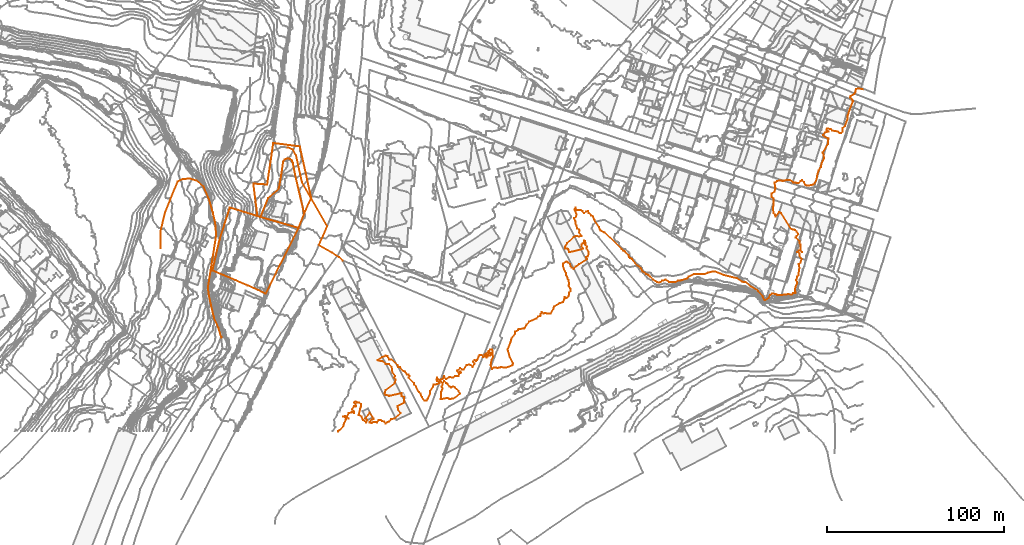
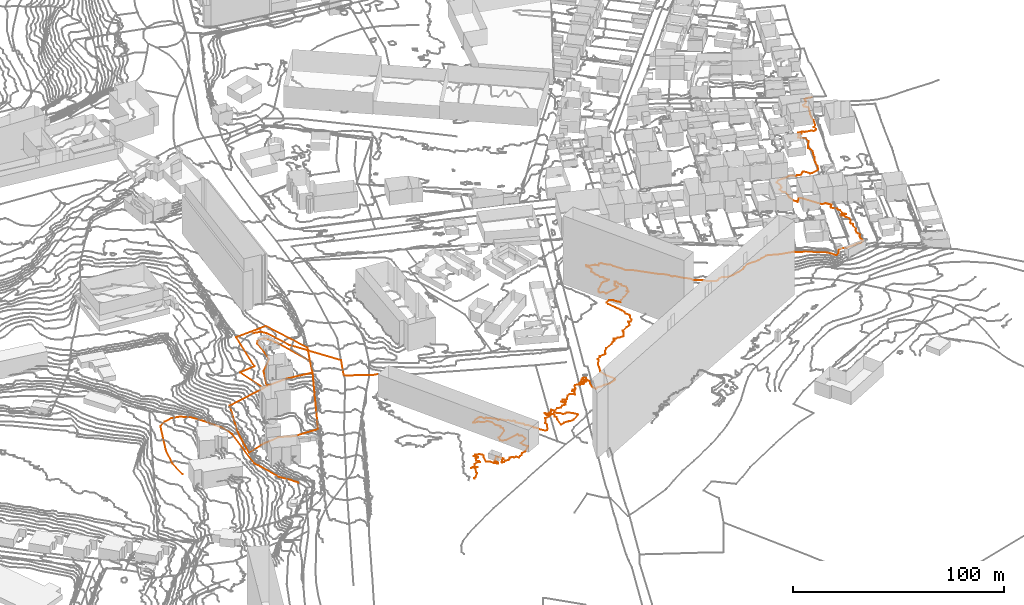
# Not in any storey, part 183 of 419: 8 proxies.
"""IFC2X3 model written with IfcOpenShell, lengths in metres."""

from ifc_helpers import new_model, entity, si_unit, frame, origin_with_axes, place, context, subcontext, project, element, save


model = new_model("IFC2X3")

# Units and contexts
model_context = context("Model", 3, precision=1e-05, world=origin_with_axes())
body_context = subcontext(model_context, "Body", "Model", "MODEL_VIEW")
ifc_project = project(units=[si_unit("AREAUNIT", "SQUARE_METRE"), si_unit("LENGTHUNIT", "METRE")], contexts=[model_context])

# Proxies
proxy_1_placement = place(None, frame((651.2920204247, 158.8976909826, 68.8), z_axis=(0.0, 0.0, 1.0), x_axis=(1.0, 0.0, 0.0)))
element("IfcBuildingElementProxy", 1, at=proxy_1_placement, Name="Route 204", ObjectType="NOTDEFINED", context=body_context, shape_type="GeometricCurveSet", body=[
    entity("IfcGeometricCurveSet", [entity("IfcPolyline", [entity("IfcCartesianPoint", [0.0, 0.0, 0.0]), entity("IfcCartesianPoint", [0.4, 0.0, 0.1]), entity("IfcCartesianPoint", [3.4, -1.2999999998, 0.6]), entity("IfcCartesianPoint", [5.2000000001, -4.7000000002, 1.1]), entity("IfcCartesianPoint", [8.5, -19.5999999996, 2.3]), entity("IfcCartesianPoint", [22.7000000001, -44.4000000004, 3.5])])]),
])
proxy_2_placement = place(None, frame((579.8920204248, 111.3976909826, 47.2), z_axis=(0.0, 0.0, 1.0), x_axis=(1.0, 0.0, 0.0)))
element("IfcBuildingElementProxy", 2, at=proxy_2_placement, Name="Route 238", ObjectType="NOTDEFINED", context=body_context, shape_type="GeometricCurveSet", body=[
    entity("IfcGeometricCurveSet", [entity("IfcPolyline", [entity("IfcCartesianPoint", [34.2999999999, -60.0, 13.3]), entity("IfcCartesianPoint", [34.3999999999, -59.7000000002, 13.3]), entity("IfcCartesianPoint", [32.7999999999, -54.5, 12.3]), entity("IfcCartesianPoint", [30.2, -48.5, 11.2]), entity("IfcCartesianPoint", [27.3999999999, -36.2000000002, 10.7]), entity("IfcCartesianPoint", [26.7999999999, -31.5, 9.7]), entity("IfcCartesianPoint", [31.5, -2.0999999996, 7.3]), entity("IfcCartesianPoint", [30.8999999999, 5.2000000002, 6.5]), entity("IfcCartesianPoint", [29.6, 10.7999999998, 5.4]), entity("IfcCartesianPoint", [27.5, 18.0, 4.2]), entity("IfcCartesianPoint", [24.3999999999, 25.2999999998, 3.0]), entity("IfcCartesianPoint", [20.3999999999, 28.7000000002, 2.7]), entity("IfcCartesianPoint", [16.7999999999, 29.7999999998, 2.5]), entity("IfcCartesianPoint", [12.7, 29.7000000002, 1.9]), entity("IfcCartesianPoint", [9.7, 28.2999999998, 1.3]), entity("IfcCartesianPoint", [2.6, 10.7000000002, 0.3]), entity("IfcCartesianPoint", [0.0, 0.0, 0.0]), entity("IfcCartesianPoint", [0.1, -9.2999999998, -0.4])])]),
])
proxy_3_placement = place(None, frame((669.2920204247, 103.6976909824, 71.5), z_axis=(0.0, 0.0, 1.0), x_axis=(1.0, 0.0, 0.0)))
element("IfcBuildingElementProxy", 3, at=proxy_3_placement, Name="Route 290", ObjectType="NOTDEFINED", context=body_context, shape_type="GeometricCurveSet", body=[
    entity("IfcGeometricCurveSet", [entity("IfcPolyline", [entity("IfcCartesianPoint", [0.0, 0.0, 0.0]), entity("IfcCartesianPoint", [7.4, -4.2999999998, 0.5]), entity("IfcCartesianPoint", [11.5, -6.7999999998, 0.5]), entity("IfcCartesianPoint", [13.5, -8.7000000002, 1.5])])]),
])
proxy_4_placement = place(None, frame((669.2920204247, 103.6976909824, 71.5), z_axis=(0.0, 0.0, 1.0), x_axis=(1.0, 0.0, 0.0)))
element("IfcBuildingElementProxy", 4, at=proxy_4_placement, Name="Route 296", ObjectType="NOTDEFINED", context=body_context, shape_type="GeometricCurveSet", body=[
    entity("IfcGeometricCurveSet", [entity("IfcPolyline", [entity("IfcCartesianPoint", [0.0, 0.0, 0.0]), entity("IfcCartesianPoint", [4.7000000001, 10.7999999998, 0.8])])]),
])
proxy_5_placement = place(None, frame((636.2920204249, 119.6176909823, 67.4784781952), z_axis=(0.0, 0.0, 1.0), x_axis=(1.0, 0.0, 0.0)))
element("IfcBuildingElementProxy", 5, at=proxy_5_placement, Name="Cadastre 117", ObjectType="NOTDEFINED", context=body_context, shape_type="GeometricCurveSet", body=[
    entity("IfcGeometricCurveSet", [entity("IfcPolyline", [entity("IfcCartesianPoint", [0.0, 0.0, 0.0]), entity("IfcCartesianPoint", [4.3899999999, 10.6900000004, 0.5376662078]), entity("IfcCartesianPoint", [10.4399999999, 15.9199999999, 2.2633123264]), entity("IfcCartesianPoint", [11.7899999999, 23.75, 1.97529002]), entity("IfcCartesianPoint", [12.86, 31.3200000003, 1.0476186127]), entity("IfcCartesianPoint", [13.7999999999, 32.4900000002, 1.3649210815]), entity("IfcCartesianPoint", [15.2, 33.0300000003, 1.6007729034]), entity("IfcCartesianPoint", [16.6899999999, 32.79, 1.8151664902]), entity("IfcCartesianPoint", [17.84, 31.8500000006, 2.0108648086]), entity("IfcCartesianPoint", [18.38, 30.4400000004, 2.2387210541]), entity("IfcCartesianPoint", [18.3899999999, 30.3100000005, 2.2551214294]), entity("IfcCartesianPoint", [19.9199999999, 22.8000000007, 3.5352466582]), entity("IfcCartesianPoint", [24.75, 1.8600000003, 4.5261637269]), entity("IfcCartesianPoint", [21.46, -6.2399999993, 3.9955786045]), entity("IfcCartesianPoint", [9.1899999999, -2.6599999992, 2.6491105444]), entity("IfcCartesianPoint", [0.0, 0.0, 0.0])])]),
])
proxy_6_placement = place(None, frame((632.3820204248, 138.4276909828, 65.3368913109), z_axis=(0.0, 0.0, 1.0), x_axis=(1.0, 0.0, 0.0)))
element("IfcBuildingElementProxy", 6, at=proxy_6_placement, Name="Cadastre 118", ObjectType="NOTDEFINED", context=body_context, shape_type="GeometricCurveSet", body=[
    entity("IfcGeometricCurveSet", [entity("IfcPolyline", [entity("IfcCartesianPoint", [2.28, -18.3300000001, 1.1955094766]), entity("IfcCartesianPoint", [0.0, 0.0, 0.0]), entity("IfcCartesianPoint", [7.76, -0.5099999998, 1.090267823]), entity("IfcCartesianPoint", [11.21, 22.9299999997, 2.5523082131]), entity("IfcCartesianPoint", [26.26, 20.96, 4.9481054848]), entity("IfcCartesianPoint", [32.62, -7.7700000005, 7.5296092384]), entity("IfcCartesianPoint", [28.66, -16.9500000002, 6.6677506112]), entity("IfcCartesianPoint", [23.83, 3.9900000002, 5.6768335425]), entity("IfcCartesianPoint", [22.2999999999, 11.5, 4.3967083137]), entity("IfcCartesianPoint", [22.29, 11.6299999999, 4.3803079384]), entity("IfcCartesianPoint", [21.75, 13.04, 4.1524516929]), entity("IfcCartesianPoint", [20.6, 13.9799999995, 3.9567533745]), entity("IfcCartesianPoint", [19.11, 14.2199999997, 3.7423597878]), entity("IfcCartesianPoint", [17.71, 13.6799999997, 3.5065079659]), entity("IfcCartesianPoint", [16.77, 12.5099999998, 3.189205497]), entity("IfcCartesianPoint", [15.7, 4.9399999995, 4.1168769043]), entity("IfcCartesianPoint", [14.35, -2.8900000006, 4.4048992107]), entity("IfcCartesianPoint", [8.2999999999, -8.1200000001, 2.6792530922]), entity("IfcCartesianPoint", [3.91, -18.8100000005, 2.1415868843]), entity("IfcCartesianPoint", [2.28, -18.3300000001, 1.1955094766])])]),
])
proxy_7_placement = place(None, frame((609.2420204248, 89.4476909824, 56.5525741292), z_axis=(0.0, 0.0, 1.0), x_axis=(1.0, 0.0, 0.0)))
element("IfcBuildingElementProxy", 7, at=proxy_7_placement, Name="Cadastre 189", ObjectType="NOTDEFINED", context=body_context, shape_type="GeometricCurveSet", body=[
    entity("IfcGeometricCurveSet", [entity("IfcPolyline", [entity("IfcCartesianPoint", [4.2, 18.1000000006, -0.4886487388]), entity("IfcCartesianPoint", [9.8, 35.4900000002, 2.3563461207]), entity("IfcCartesianPoint", [25.42, 30.6500000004, 9.9798266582]), entity("IfcCartesianPoint", [27.05, 30.1699999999, 10.925904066]), entity("IfcCartesianPoint", [36.24, 27.5100000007, 13.5750146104]), entity("IfcCartesianPoint", [48.51, 23.9300000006, 14.9214826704]), entity("IfcCartesianPoint", [30.08, -13.1099999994, 11.1440056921]), entity("IfcCartesianPoint", [19.87, -8.4299999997, 7.8093286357]), entity("IfcCartesianPoint", [12.96, -5.5599999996, 7.8801990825]), entity("IfcCartesianPoint", [6.26, -2.6999999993, 4.8197861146]), entity("IfcCartesianPoint", [0.0, 0.0, 0.0]), entity("IfcCartesianPoint", [4.2, 18.1000000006, -0.4886487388])])]),
])
proxy_8_placement = place(None, frame((680.0921203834, -1.6023090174, 72.0), z_axis=(0.0, 0.0, 1.0), x_axis=(1.0, 0.0, 0.0)))
element("IfcBuildingElementProxy", 8, at=proxy_8_placement, Name="Contour 72.0 m", ObjectType="NOTDEFINED", context=body_context, shape_type="GeometricCurveSet", body=[
    entity("IfcGeometricCurveSet", [entity("IfcPolyline", [entity("IfcCartesianPoint", [296.4999000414, 193.2368442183, 0.0]), entity("IfcCartesianPoint", [293.9999000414, 193.7424284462, 0.0]), entity("IfcCartesianPoint", [292.3332333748, 193.5, 0.0]), entity("IfcCartesianPoint", [291.9999167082, 191.5, 0.0]), entity("IfcCartesianPoint", [291.2498761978, 190.5, 0.0]), entity("IfcCartesianPoint", [289.4284558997, 189.5, 0.0]), entity("IfcCartesianPoint", [289.1665455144, 188.5, 0.0]), entity("IfcCartesianPoint", [290.166587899, 187.5, 0.0]), entity("IfcCartesianPoint", [290.6999076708, 186.5, 0.0]), entity("IfcCartesianPoint", [288.6577995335, 181.5, 0.0]), entity("IfcCartesianPoint", [287.7498940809, 178.5, 0.0]), entity("IfcCartesianPoint", [287.5141888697, 176.5, 0.0]), entity("IfcCartesianPoint", [286.1514235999, 172.5, 0.0]), entity("IfcCartesianPoint", [284.7499000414, 171.5, 0.0]), entity("IfcCartesianPoint", [284.8332121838, 169.5, 0.0]), entity("IfcCartesianPoint", [283.9999000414, 168.6666878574, 0.0]), entity("IfcCartesianPoint", [282.9999000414, 168.7000305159, 0.0]), entity("IfcCartesianPoint", [281.9999000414, 169.3999771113, 0.0]), entity("IfcCartesianPoint", [278.9999000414, 169.9999500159, 0.0]), entity("IfcCartesianPoint", [277.9999000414, 170.89996948, 0.0]), entity("IfcCartesianPoint", [275.9999000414, 171.0833174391, 0.0]), entity("IfcCartesianPoint", [275.7199012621, 170.5, 0.0]), entity("IfcCartesianPoint", [275.9999000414, 169.7999923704, 0.0]), entity("IfcCartesianPoint", [277.0, 169.5, 0.0]), entity("IfcCartesianPoint", [274.9999000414, 168.9666598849, 0.0]), entity("IfcCartesianPoint", [273.8517508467, 167.5, 0.0]), entity("IfcCartesianPoint", [274.749923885, 166.5, 0.0]), entity("IfcCartesianPoint", [276.8181007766, 165.5, 0.0]), entity("IfcCartesianPoint", [276.6248911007, 162.5, 0.0]), entity("IfcCartesianPoint", [273.666566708, 157.5, 0.0]), entity("IfcCartesianPoint", [274.0999019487, 156.5, 0.0]), entity("IfcCartesianPoint", [274.3558329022, 154.5, 0.0]), entity("IfcCartesianPoint", [272.9999000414, 151.3500038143, 0.0]), entity("IfcCartesianPoint", [272.5889388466, 149.5, 0.0]), entity("IfcCartesianPoint", [271.311011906, 147.5, 0.0]), entity("IfcCartesianPoint", [270.6550742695, 145.5, 0.0]), entity("IfcCartesianPoint", [270.2120216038, 142.5, 0.0]), entity("IfcCartesianPoint", [268.9999000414, 140.1818213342, 0.0]), entity("IfcCartesianPoint", [268.318078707, 139.5, 0.0]), entity("IfcCartesianPoint", [264.9999000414, 138.8529451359, 0.0]), entity("IfcCartesianPoint", [263.9999000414, 139.0937581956, 0.0]), entity("IfcCartesianPoint", [262.9999000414, 140.9090861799, 0.0]), entity("IfcCartesianPoint", [261.9999000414, 141.9999937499, 0.0]), entity("IfcCartesianPoint", [260.9999000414, 141.48038805, 0.0]), entity("IfcCartesianPoint", [259.9999000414, 140.3902483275, 0.0]), entity("IfcCartesianPoint", [258.9999000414, 140.2808179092, 0.0]), entity("IfcCartesianPoint", [257.9999000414, 140.7388093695, 0.0]), entity("IfcCartesianPoint", [256.9999000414, 140.7222203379, 0.0]), entity("IfcCartesianPoint", [254.9999000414, 142.1190372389, 0.0]), entity("IfcCartesianPoint", [253.9999000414, 142.1818213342, 0.0]), entity("IfcCartesianPoint", [250.9999000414, 141.5869435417, 0.0]), entity("IfcCartesianPoint", [249.9999000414, 141.8928610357, 0.0]), entity("IfcCartesianPoint", [247.9999000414, 141.5666802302, 0.0]), entity("IfcCartesianPoint", [246.4443350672, 140.5, 0.0]), entity("IfcCartesianPoint", [246.8998771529, 137.5, 0.0]), entity("IfcCartesianPoint", [246.3331909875, 135.5, 0.0]), entity("IfcCartesianPoint", [244.7499000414, 134.5, 0.0]), entity("IfcCartesianPoint", [244.8665836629, 132.5, 0.0]), entity("IfcCartesianPoint", [245.9999045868, 131.5, 0.0]), entity("IfcCartesianPoint", [245.9999037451, 128.5, 0.0]), entity("IfcCartesianPoint", [245.5292959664, 126.5, 0.0]), entity("IfcCartesianPoint", [245.9165508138, 123.5, 0.0]), entity("IfcCartesianPoint", [246.6999076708, 122.5, 0.0]), entity("IfcCartesianPoint", [246.9999000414, 121.3749761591, 0.0]), entity("IfcCartesianPoint", [248.9999000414, 123.9000000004, 0.0]), entity("IfcCartesianPoint", [250.166587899, 123.5, 0.0]), entity("IfcCartesianPoint", [255.9999000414, 114.2500238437, 0.0]), entity("IfcCartesianPoint", [257.9999000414, 113.9545706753, 0.0]), entity("IfcCartesianPoint", [258.9999000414, 112.8749761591, 0.0]), entity("IfcCartesianPoint", [259.8460764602, 111.5, 0.0]), entity("IfcCartesianPoint", [258.7999305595, 110.5, 0.0]), entity("IfcCartesianPoint", [258.3808628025, 109.5, 0.0]), entity("IfcCartesianPoint", [260.4999125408, 107.5, 0.0]), entity("IfcCartesianPoint", [260.4999250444, 106.5, 0.0]), entity("IfcCartesianPoint", [261.166587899, 105.5, 0.0]), entity("IfcCartesianPoint", [260.9999167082, 102.5, 0.0]), entity("IfcCartesianPoint", [261.999909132, 101.5, 0.0]), entity("IfcCartesianPoint", [260.9999000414, 102.4999499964, 0.0]), entity("IfcCartesianPoint", [259.9999000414, 102.2778060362, 0.0]), entity("IfcCartesianPoint", [259.1249238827, 101.5, 0.0]), entity("IfcCartesianPoint", [260.6666090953, 100.5, 0.0]), entity("IfcCartesianPoint", [260.555446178, 99.5, 0.0]), entity("IfcCartesianPoint", [261.6332350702, 97.5, 0.0]), entity("IfcCartesianPoint", [261.1175286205, 95.5, 0.0]), entity("IfcCartesianPoint", [260.1249238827, 94.5, 0.0]), entity("IfcCartesianPoint", [260.1998695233, 93.5, 0.0]), entity("IfcCartesianPoint", [260.6665808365, 92.5, 0.0]), entity("IfcCartesianPoint", [260.2367342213, 91.5, 0.0]), entity("IfcCartesianPoint", [259.9999017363, 88.5, 0.0]), entity("IfcCartesianPoint", [259.2591613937, 87.5, 0.0]), entity("IfcCartesianPoint", [258.6450565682, 85.5, 0.0]), entity("IfcCartesianPoint", [259.15862847, 84.5, 0.0]), entity("IfcCartesianPoint", [259.2466550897, 83.5, 0.0]), entity("IfcCartesianPoint", [258.5105324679, 82.5, 0.0]), entity("IfcCartesianPoint", [257.954436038, 80.5, 0.0]), entity("IfcCartesianPoint", [258.1881382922, 78.5, 0.0]), entity("IfcCartesianPoint", [257.9999000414, 78.3571399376, 0.0]), entity("IfcCartesianPoint", [256.9999000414, 78.1769252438, 0.0]), entity("IfcCartesianPoint", [255.9999000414, 77.3253961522, 0.0]), entity("IfcCartesianPoint", [253.9999000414, 77.7499952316, 0.0]), entity("IfcCartesianPoint", [252.9999000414, 77.3421049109, 0.0]), entity("IfcCartesianPoint", [247.9999000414, 77.1623367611, 0.0]), entity("IfcCartesianPoint", [246.9999000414, 77.7745074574, 0.0]), entity("IfcCartesianPoint", [244.9999000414, 77.9218701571, 0.0]), entity("IfcCartesianPoint", [243.9999000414, 77.25, 0.0]), entity("IfcCartesianPoint", [242.9539221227, 75.5, 0.0]), entity("IfcCartesianPoint", [240.9999000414, 74.2387380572, 0.0]), entity("IfcCartesianPoint", [240.6183209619, 74.5, 0.0]), entity("IfcCartesianPoint", [239.7846231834, 76.5, 0.0]), entity("IfcCartesianPoint", [237.2541382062, 79.5, 0.0]), entity("IfcCartesianPoint", [232.9999000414, 82.0454570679, 0.0]), entity("IfcCartesianPoint", [229.9999000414, 84.333333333, 0.0]), entity("IfcCartesianPoint", [227.9999000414, 84.7058836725, 0.0]), entity("IfcCartesianPoint", [224.9999000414, 86.6799926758, 0.0]), entity("IfcCartesianPoint", [217.9999000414, 88.3749970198, 0.0]), entity("IfcCartesianPoint", [212.9999000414, 90.4166799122, 0.0]), entity("IfcCartesianPoint", [211.9999000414, 90.5399932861, 0.0]), entity("IfcCartesianPoint", [208.9999000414, 89.8500038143, 0.0]), entity("IfcCartesianPoint", [206.9999000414, 88.9864836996, 0.0]), entity("IfcCartesianPoint", [200.9999000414, 89.051735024, 0.0]), entity("IfcCartesianPoint", [197.9999000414, 87.4999971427, 0.0]), entity("IfcCartesianPoint", [197.027683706, 86.5, 0.0]), entity("IfcCartesianPoint", [193.9999000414, 85.4669413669, 0.0]), entity("IfcCartesianPoint", [191.9999000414, 85.1874990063, 0.0]), entity("IfcCartesianPoint", [190.4284558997, 84.5, 0.0]), entity("IfcCartesianPoint", [186.9999000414, 84.4999980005, 0.0]), entity("IfcCartesianPoint", [184.9999000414, 85.7619073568, 0.0]), entity("IfcCartesianPoint", [182.9999000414, 85.1799926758, 0.0]), entity("IfcCartesianPoint", [181.9999000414, 84.3888865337, 0.0]), entity("IfcCartesianPoint", [180.9999000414, 84.2454570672, 0.0]), entity("IfcCartesianPoint", [180.0665802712, 84.5, 0.0]), entity("IfcCartesianPoint", [177.9999000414, 85.75, 0.0]), entity("IfcCartesianPoint", [176.0598976, 87.5, 0.0]), entity("IfcCartesianPoint", [175.3828784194, 88.5, 0.0]), entity("IfcCartesianPoint", [173.9999000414, 88.9358971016, 0.0]), entity("IfcCartesianPoint", [171.942210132, 90.5, 0.0]), entity("IfcCartesianPoint", [170.8810856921, 92.5, 0.0]), entity("IfcCartesianPoint", [168.9999000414, 93.9088049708, 0.0]), entity("IfcCartesianPoint", [165.9999000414, 97.5198667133, 0.0]), entity("IfcCartesianPoint", [164.9999000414, 97.9044953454, 0.0]), entity("IfcCartesianPoint", [164.3800180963, 98.5, 0.0]), entity("IfcCartesianPoint", [163.9999000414, 99.6724106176, 0.0]), entity("IfcCartesianPoint", [161.9999000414, 101.7400054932, 0.0]), entity("IfcCartesianPoint", [160.9999000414, 102.1623367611, 0.0]), entity("IfcCartesianPoint", [159.9999000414, 103.082276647, 0.0]), entity("IfcCartesianPoint", [150.4582399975, 112.5, 0.0]), entity("IfcCartesianPoint", [148.1427883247, 113.5, 0.0]), entity("IfcCartesianPoint", [147.3748762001, 115.5, 0.0]), entity("IfcCartesianPoint", [144.7498523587, 119.5, 0.0]), entity("IfcCartesianPoint", [143.9999000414, 121.4999499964, 0.0]), entity("IfcCartesianPoint", [142.9999000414, 121.9999500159, 0.0]), entity("IfcCartesianPoint", [141.4998500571, 123.5, 0.0]), entity("IfcCartesianPoint", [141.249947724, 124.5, 0.0]), entity("IfcCartesianPoint", [139.9999000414, 124.3571117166, 0.0]), entity("IfcCartesianPoint", [138.9999000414, 123.3333121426, 0.0]), entity("IfcCartesianPoint", [137.9999000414, 124.499966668, 0.0]), entity("IfcCartesianPoint", [136.9999000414, 124.9999749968, 0.0]), entity("IfcCartesianPoint", [134.9999000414, 125.1665818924, 0.0]), entity("IfcCartesianPoint", [133.9999000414, 126.4999499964, 0.0]), entity("IfcCartesianPoint", [133.6666090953, 125.5, 0.0]), entity("IfcCartesianPoint", [134.6666090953, 122.5, 0.0]), entity("IfcCartesianPoint", [134.3331909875, 121.5, 0.0]), entity("IfcCartesianPoint", [133.399869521, 120.5, 0.0]), entity("IfcCartesianPoint", [134.166587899, 118.5, 0.0]), entity("IfcCartesianPoint", [133.9999200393, 117.5, 0.0]), entity("IfcCartesianPoint", [134.6666090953, 116.5, 0.0]), entity("IfcCartesianPoint", [134.9999000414, 114.7500476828, 0.0]), entity("IfcCartesianPoint", [135.9999000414, 114.0000166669, 0.0]), entity("IfcCartesianPoint", [136.2726147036, 113.5, 0.0]), entity("IfcCartesianPoint", [136.199930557, 112.5, 0.0]), entity("IfcCartesianPoint", [137.4999500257, 110.5, 0.0]), entity("IfcCartesianPoint", [135.9999000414, 110.2368442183, 0.0]), entity("IfcCartesianPoint", [133.9999000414, 110.4230882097, 0.0]), entity("IfcCartesianPoint", [132.9999000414, 109.7381021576, 0.0]), entity("IfcCartesianPoint", [129.3683147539, 106.5, 0.0]), entity("IfcCartesianPoint", [128.3332192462, 104.5, 0.0]), entity("IfcCartesianPoint", [128.3333181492, 103.5, 0.0]), entity("IfcCartesianPoint", [129.9999000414, 103.214332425, 0.0]), entity("IfcCartesianPoint", [130.4999500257, 101.5, 0.0]), entity("IfcCartesianPoint", [130.9999000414, 101.4230633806, 0.0]), entity("IfcCartesianPoint", [136.9999000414, 102.8077058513, 0.0]), entity("IfcCartesianPoint", [138.2498761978, 103.5, 0.0]), entity("IfcCartesianPoint", [137.6570410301, 104.5, 0.0]), entity("IfcCartesianPoint", [137.4813773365, 105.5, 0.0]), entity("IfcCartesianPoint", [137.9999000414, 106.2368294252, 0.0]), entity("IfcCartesianPoint", [138.5554650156, 106.5, 0.0]), entity("IfcCartesianPoint", [138.9999000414, 107.8334181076, 0.0]), entity("IfcCartesianPoint", [139.4999500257, 107.5, 0.0]), entity("IfcCartesianPoint", [139.7998695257, 106.5, 0.0]), entity("IfcCartesianPoint", [139.5832174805, 105.5, 0.0]), entity("IfcCartesianPoint", [140.4999167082, 104.5, 0.0]), entity("IfcCartesianPoint", [140.3331909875, 103.5, 0.0]), entity("IfcCartesianPoint", [141.4999071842, 101.5, 0.0]), entity("IfcCartesianPoint", [141.4999071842, 100.5, 0.0]), entity("IfcCartesianPoint", [140.9999000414, 98.9999500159, 0.0]), entity("IfcCartesianPoint", [140.0, 98.5, 0.0]), entity("IfcCartesianPoint", [140.4999125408, 97.5, 0.0]), entity("IfcCartesianPoint", [136.2398902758, 94.5, 0.0]), entity("IfcCartesianPoint", [133.9999000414, 93.2692352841, 0.0]), entity("IfcCartesianPoint", [132.9999000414, 91.9444350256, 0.0]), entity("IfcCartesianPoint", [131.9999000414, 92.7353020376, 0.0]), entity("IfcCartesianPoint", [131.3808628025, 93.5, 0.0]), entity("IfcCartesianPoint", [130.9999000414, 94.5833492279, 0.0]), entity("IfcCartesianPoint", [129.9999000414, 95.4999750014, 0.0]), entity("IfcCartesianPoint", [128.9999000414, 95.9999749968, 0.0]), entity("IfcCartesianPoint", [126.9999000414, 94.9999749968, 0.0]), entity("IfcCartesianPoint", [126.9999000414, 93.5000500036, 0.0]), entity("IfcCartesianPoint", [128.6499029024, 89.5, 0.0]), entity("IfcCartesianPoint", [128.8054567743, 88.5, 0.0]), entity("IfcCartesianPoint", [129.4614400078, 87.5, 0.0]), entity("IfcCartesianPoint", [129.5525332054, 86.5, 0.0]), entity("IfcCartesianPoint", [130.1763653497, 85.5, 0.0]), entity("IfcCartesianPoint", [130.4826550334, 83.5, 0.0]), entity("IfcCartesianPoint", [130.3124119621, 82.5, 0.0]), entity("IfcCartesianPoint", [131.2630706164, 80.5, 0.0]), entity("IfcCartesianPoint", [131.1763653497, 79.5, 0.0]), entity("IfcCartesianPoint", [130.5383706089, 78.5, 0.0]), entity("IfcCartesianPoint", [130.2726147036, 76.5, 0.0]), entity("IfcCartesianPoint", [128.9999000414, 75.499966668, 0.0]), entity("IfcCartesianPoint", [127.9999000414, 75.9999749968, 0.0]), entity("IfcCartesianPoint", [127.7498523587, 74.5, 0.0]), entity("IfcCartesianPoint", [126.9999000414, 73.1665818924, 0.0]), entity("IfcCartesianPoint", [124.9999000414, 72.4999800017, 0.0]), entity("IfcCartesianPoint", [121.9999000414, 70.7500476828, 0.0]), entity("IfcCartesianPoint", [121.6362573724, 69.5, 0.0]), entity("IfcCartesianPoint", [119.9999000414, 66.7500476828, 0.0]), entity("IfcCartesianPoint", [117.9999000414, 66.6999694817, 0.0]), entity("IfcCartesianPoint", [116.9999000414, 66.9999916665, 0.0]), entity("IfcCartesianPoint", [115.9999000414, 66.8077058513, 0.0]), entity("IfcCartesianPoint", [114.9999000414, 67.499966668, 0.0]), entity("IfcCartesianPoint", [114.399869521, 66.5, 0.0]), entity("IfcCartesianPoint", [114.4999500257, 65.5, 0.0]), entity("IfcCartesianPoint", [112.9999000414, 64.9999500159, 0.0]), entity("IfcCartesianPoint", [111.9999000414, 63.9999833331, 0.0]), entity("IfcCartesianPoint", [107.9999000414, 62.10003052, 0.0]), entity("IfcCartesianPoint", [106.399869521, 60.5, 0.0]), entity("IfcCartesianPoint", [105.4284558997, 58.5, 0.0]), entity("IfcCartesianPoint", [104.9999000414, 58.166666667, 0.0]), entity("IfcCartesianPoint", [101.9999000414, 57.9999500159, 0.0]), entity("IfcCartesianPoint", [101.7998695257, 57.5, 0.0]), entity("IfcCartesianPoint", [99.9999333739, 56.5, 0.0]), entity("IfcCartesianPoint", [99.9284558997, 55.5, 0.0]), entity("IfcCartesianPoint", [97.9090035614, 52.5, 0.0]), entity("IfcCartesianPoint", [97.3999000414, 50.5, 0.0]), entity("IfcCartesianPoint", [95.7618073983, 46.5, 0.0]), entity("IfcCartesianPoint", [96.9284675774, 42.5, 0.0]), entity("IfcCartesianPoint", [98.8181007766, 38.5, 0.0]), entity("IfcCartesianPoint", [98.5713441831, 37.5, 0.0]), entity("IfcCartesianPoint", [94.9999000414, 36.2368294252, 0.0]), entity("IfcCartesianPoint", [91.9999000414, 36.3999771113, 0.0]), entity("IfcCartesianPoint", [89.9999000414, 35.9999875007, 0.0]), entity("IfcCartesianPoint", [87.9999000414, 36.3333121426, 0.0]), entity("IfcCartesianPoint", [86.999850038, 35.5, 0.0]), entity("IfcCartesianPoint", [86.199930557, 37.5, 0.0]), entity("IfcCartesianPoint", [86.6999076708, 40.5, 0.0]), entity("IfcCartesianPoint", [87.5881326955, 42.5, 0.0]), entity("IfcCartesianPoint", [87.2498761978, 43.5, 0.0]), entity("IfcCartesianPoint", [87.3570662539, 45.5, 0.0]), entity("IfcCartesianPoint", [86.9999000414, 46.4999800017, 0.0]), entity("IfcCartesianPoint", [85.9999000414, 46.499966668, 0.0]), entity("IfcCartesianPoint", [84.9999333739, 45.5, 0.0]), entity("IfcCartesianPoint", [86.199930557, 44.5, 0.0]), entity("IfcCartesianPoint", [86.4999250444, 43.5, 0.0]), entity("IfcCartesianPoint", [85.9999000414, 43.10003052, 0.0]), entity("IfcCartesianPoint", [84.9999000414, 42.9999500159, 0.0]), entity("IfcCartesianPoint", [84.4998500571, 43.5, 0.0]), entity("IfcCartesianPoint", [85.4998500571, 44.5, 0.0]), entity("IfcCartesianPoint", [84.9999000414, 45.4999000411, 0.0]), entity("IfcCartesianPoint", [82.7498523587, 43.5, 0.0]), entity("IfcCartesianPoint", [82.9999000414, 42.5000999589, 0.0]), entity("IfcCartesianPoint", [83.9999000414, 43.0000499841, 0.0]), entity("IfcCartesianPoint", [84.4999500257, 42.5, 0.0]), entity("IfcCartesianPoint", [83.9999000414, 41.9999500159, 0.0]), entity("IfcCartesianPoint", [82.9999000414, 42.4999000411, 0.0]), entity("IfcCartesianPoint", [81.9999000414, 42.1665818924, 0.0]), entity("IfcCartesianPoint", [80.9999000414, 43.1665818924, 0.0]), entity("IfcCartesianPoint", [79.9999000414, 43.1665818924, 0.0]), entity("IfcCartesianPoint", [79.3333181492, 42.5, 0.0]), entity("IfcCartesianPoint", [78.6664819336, 40.5, 0.0]), entity("IfcCartesianPoint", [77.9999000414, 39.9999749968, 0.0]), entity("IfcCartesianPoint", [76.9999000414, 40.4999499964, 0.0]), entity("IfcCartesianPoint", [76.3333181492, 39.5, 0.0]), entity("IfcCartesianPoint", [76.9999500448, 38.5, 0.0]), entity("IfcCartesianPoint", [75.9999000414, 36.499966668, 0.0]), entity("IfcCartesianPoint", [74.9998000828, 37.5, 0.0]), entity("IfcCartesianPoint", [73.9999000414, 37.9999500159, 0.0]), entity("IfcCartesianPoint", [72.4999500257, 37.5, 0.0]), entity("IfcCartesianPoint", [70.9999000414, 35.1667090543, 0.0]), entity("IfcCartesianPoint", [69.9999000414, 35.0714441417, 0.0]), entity("IfcCartesianPoint", [68.9999000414, 35.8334181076, 0.0]), entity("IfcCartesianPoint", [67.3333181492, 34.5, 0.0]), entity("IfcCartesianPoint", [67.9999000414, 33.5000500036, 0.0]), entity("IfcCartesianPoint", [68.9999000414, 34.0000166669, 0.0]), entity("IfcCartesianPoint", [69.4999167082, 33.5, 0.0]), entity("IfcCartesianPoint", [68.4284558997, 32.5, 0.0]), entity("IfcCartesianPoint", [67.9999500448, 31.5, 0.0]), entity("IfcCartesianPoint", [65.9999000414, 31.499966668, 0.0]), entity("IfcCartesianPoint", [64.9999000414, 30.4999750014, 0.0]), entity("IfcCartesianPoint", [62.9999000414, 30.8077058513, 0.0]), entity("IfcCartesianPoint", [60.9999000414, 29.8334181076, 0.0]), entity("IfcCartesianPoint", [60.3333181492, 30.5, 0.0]), entity("IfcCartesianPoint", [59.9999000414, 31.4999000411, 0.0]), entity("IfcCartesianPoint", [59.6664819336, 30.5, 0.0]), entity("IfcCartesianPoint", [58.9999000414, 29.8334181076, 0.0]), entity("IfcCartesianPoint", [58.0, 29.5, 0.0]), entity("IfcCartesianPoint", [57.9999333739, 28.5, 0.0]), entity("IfcCartesianPoint", [58.9999000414, 27.500033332, 0.0]), entity("IfcCartesianPoint", [59.9999000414, 28.500033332, 0.0]), entity("IfcCartesianPoint", [60.9999000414, 27.5000500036, 0.0]), entity("IfcCartesianPoint", [61.9999000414, 27.0000499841, 0.0]), entity("IfcCartesianPoint", [62.9999000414, 25.3749761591, 0.0]), entity("IfcCartesianPoint", [63.9999000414, 25.0384705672, 0.0]), entity("IfcCartesianPoint", [64.9999000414, 25.5000142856, 0.0]), entity("IfcCartesianPoint", [65.9999000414, 24.9444350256, 0.0]), entity("IfcCartesianPoint", [67.9999000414, 23.0000250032, 0.0]), entity("IfcCartesianPoint", [69.0, 21.5, 0.0]), entity("IfcCartesianPoint", [64.9999000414, 18.6666878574, 0.0]), entity("IfcCartesianPoint", [62.9999000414, 18.4999900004, 0.0]), entity("IfcCartesianPoint", [61.9999000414, 18.9285558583, 0.0]), entity("IfcCartesianPoint", [59.9999000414, 18.8334181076, 0.0]), entity("IfcCartesianPoint", [57.9999000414, 18.2999694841, 0.0]), entity("IfcCartesianPoint", [58.3124119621, 22.5, 0.0]), entity("IfcCartesianPoint", [59.0832492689, 24.5, 0.0]), entity("IfcCartesianPoint", [58.5999305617, 25.5, 0.0]), entity("IfcCartesianPoint", [59.166587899, 26.5, 0.0]), entity("IfcCartesianPoint", [58.9999000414, 27.4999000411, 0.0]), entity("IfcCartesianPoint", [56.4998500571, 29.5, 0.0]), entity("IfcCartesianPoint", [55.9999000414, 30.4999000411, 0.0]), entity("IfcCartesianPoint", [55.7998695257, 29.5, 0.0]), entity("IfcCartesianPoint", [55.9999000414, 28.5000999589, 0.0]), entity("IfcCartesianPoint", [57.4999500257, 27.5, 0.0]), entity("IfcCartesianPoint", [55.9999000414, 26.8334181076, 0.0]), entity("IfcCartesianPoint", [53.9999000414, 26.4999000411, 0.0]), entity("IfcCartesianPoint", [53.6664819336, 25.5, 0.0]), entity("IfcCartesianPoint", [51.9999000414, 22.9999500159, 0.0]), entity("IfcCartesianPoint", [51.9999111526, 21.5, 0.0]), entity("IfcCartesianPoint", [50.6362573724, 18.5, 0.0]), entity("IfcCartesianPoint", [49.9999000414, 17.7221939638, 0.0]), entity("IfcCartesianPoint", [48.9999000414, 17.4545359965, 0.0]), entity("IfcCartesianPoint", [47.3748762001, 19.5, 0.0]), entity("IfcCartesianPoint", [46.6427338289, 21.5, 0.0]), entity("IfcCartesianPoint", [45.666566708, 22.5, 0.0]), entity("IfcCartesianPoint", [44.0587341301, 25.5, 0.0]), entity("IfcCartesianPoint", [42.9998667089, 26.5, 0.0]), entity("IfcCartesianPoint", [42.9998800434, 27.5, 0.0]), entity("IfcCartesianPoint", [39.9998857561, 30.5, 0.0]), entity("IfcCartesianPoint", [40.3999153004, 31.5, 0.0]), entity("IfcCartesianPoint", [39.9999000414, 32.1667090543, 0.0]), entity("IfcCartesianPoint", [38.9999000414, 32.2999694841, 0.0]), entity("IfcCartesianPoint", [37.9999000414, 33.9999749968, 0.0]), entity("IfcCartesianPoint", [36.9999000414, 34.1665818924, 0.0]), entity("IfcCartesianPoint", [34.9999000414, 36.4999499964, 0.0]), entity("IfcCartesianPoint", [33.9999000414, 36.4999750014, 0.0]), entity("IfcCartesianPoint", [33.7498523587, 37.5, 0.0]), entity("IfcCartesianPoint", [29.9999000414, 40.8334181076, 0.0]), entity("IfcCartesianPoint", [28.9999000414, 40.7500476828, 0.0]), entity("IfcCartesianPoint", [27.9999000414, 42.7500476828, 0.0]), entity("IfcCartesianPoint", [26.9999000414, 42.857166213, 0.0]), entity("IfcCartesianPoint", [24.9999000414, 42.1470693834, 0.0]), entity("IfcCartesianPoint", [22.4999125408, 40.5, 0.0]), entity("IfcCartesianPoint", [22.9999000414, 40.0555649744, 0.0]), entity("IfcCartesianPoint", [24.9999000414, 39.9166640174, 0.0]), entity("IfcCartesianPoint", [26.9999000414, 38.2857220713, 0.0]), entity("IfcCartesianPoint", [28.9999000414, 38.2499523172, 0.0]), entity("IfcCartesianPoint", [30.3332333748, 36.5, 0.0]), entity("IfcCartesianPoint", [30.8332121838, 33.5, 0.0]), entity("IfcCartesianPoint", [32.3748762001, 31.5, 0.0]), entity("IfcCartesianPoint", [31.7998695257, 30.5, 0.0]), entity("IfcCartesianPoint", [32.5999305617, 29.5, 0.0]), entity("IfcCartesianPoint", [32.1110299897, 27.5, 0.0]), entity("IfcCartesianPoint", [26.8181007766, 23.5, 0.0]), entity("IfcCartesianPoint", [26.4544707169, 21.5, 0.0]), entity("IfcCartesianPoint", [26.9999000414, 20.7499761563, 0.0]), entity("IfcCartesianPoint", [28.9999000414, 20.25, 0.0]), entity("IfcCartesianPoint", [35.9999000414, 21.7727146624, 0.0]), entity("IfcCartesianPoint", [35.9999000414, 20.2499523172, 0.0]), entity("IfcCartesianPoint", [37.2271853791, 19.5, 0.0]), entity("IfcCartesianPoint", [37.4999071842, 16.5, 0.0]), entity("IfcCartesianPoint", [33.6664819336, 14.5, 0.0]), entity("IfcCartesianPoint", [33.9999000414, 12.5000999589, 0.0]), entity("IfcCartesianPoint", [35.3333181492, 10.5, 0.0]), entity("IfcCartesianPoint", [31.9999000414, 7.4999750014, 0.0]), entity("IfcCartesianPoint", [29.9999000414, 7.10003052, 0.0]), entity("IfcCartesianPoint", [28.9999000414, 5.8334181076, 0.0]), entity("IfcCartesianPoint", [27.9999000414, 5.4999750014, 0.0]), entity("IfcCartesianPoint", [26.9999000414, 4.6666878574, 0.0]), entity("IfcCartesianPoint", [25.9999000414, 5.8332909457, 0.0]), entity("IfcCartesianPoint", [24.9999000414, 5.89996948, 0.0]), entity("IfcCartesianPoint", [23.9999000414, 6.6250238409, 0.0]), entity("IfcCartesianPoint", [22.9999000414, 6.6666878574, 0.0]), entity("IfcCartesianPoint", [21.9999000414, 5.2999694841, 0.0]), entity("IfcCartesianPoint", [19.9999000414, 5.4999857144, 0.0]), entity("IfcCartesianPoint", [18.9999000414, 4.9999749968, 0.0]), entity("IfcCartesianPoint", [17.9999000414, 5.1665818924, 0.0]), entity("IfcCartesianPoint", [17.8998771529, 5.5, 0.0]), entity("IfcCartesianPoint", [18.9999000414, 6.7727146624, 0.0]), entity("IfcCartesianPoint", [19.9999000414, 7.1665818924, 0.0]), entity("IfcCartesianPoint", [20.199930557, 7.5, 0.0]), entity("IfcCartesianPoint", [17.9999000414, 10.8334181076, 0.0]), entity("IfcCartesianPoint", [15.3331909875, 7.5, 0.0]), entity("IfcCartesianPoint", [16.3999153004, 6.5, 0.0]), entity("IfcCartesianPoint", [15.9999000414, 5.2499523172, 0.0]), entity("IfcCartesianPoint", [14.3076058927, 6.5, 0.0]), entity("IfcCartesianPoint", [13.2855676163, 8.5, 0.0]), entity("IfcCartesianPoint", [11.7498523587, 9.5, 0.0]), entity("IfcCartesianPoint", [12.6664819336, 13.5, 0.0]), entity("IfcCartesianPoint", [13.199930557, 14.5, 0.0]), entity("IfcCartesianPoint", [12.9999000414, 15.4999000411, 0.0]), entity("IfcCartesianPoint", [11.9999000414, 16.4999000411, 0.0]), entity("IfcCartesianPoint", [10.9999000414, 16.4999000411, 0.0]), entity("IfcCartesianPoint", [9.9999000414, 16.9999500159, 0.0]), entity("IfcCartesianPoint", [9.0, 16.5, 0.0]), entity("IfcCartesianPoint", [10.0, 15.5, 0.0]), entity("IfcCartesianPoint", [10.249947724, 14.5, 0.0]), entity("IfcCartesianPoint", [9.9999000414, 14.1665818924, 0.0]), entity("IfcCartesianPoint", [8.9999000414, 14.4999499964, 0.0]), entity("IfcCartesianPoint", [7.9999500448, 12.5, 0.0]), entity("IfcCartesianPoint", [8.9999500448, 11.5, 0.0]), entity("IfcCartesianPoint", [9.0, 10.5, 0.0]), entity("IfcCartesianPoint", [7.9999000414, 10.9999500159, 0.0]), entity("IfcCartesianPoint", [5.9999000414, 10.499966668, 0.0]), entity("IfcCartesianPoint", [4.9999333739, 8.5, 0.0]), entity("IfcCartesianPoint", [5.9999000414, 7.499966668, 0.0]), entity("IfcCartesianPoint", [4.9998000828, 8.5, 0.0]), entity("IfcCartesianPoint", [3.9999000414, 8.7500476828, 0.0]), entity("IfcCartesianPoint", [3.0, 8.5, 0.0]), entity("IfcCartesianPoint", [3.9999000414, 8.2499523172, 0.0]), entity("IfcCartesianPoint", [4.5999305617, 7.5, 0.0]), entity("IfcCartesianPoint", [4.399869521, 6.5, 0.0]), entity("IfcCartesianPoint", [3.3333181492, 4.5, 0.0]), entity("IfcCartesianPoint", [3.249947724, 3.5, 0.0]), entity("IfcCartesianPoint", [0.9999000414, 0.8334181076, 0.0]), entity("IfcCartesianPoint", [0.0, 0.5, 0.0]), entity("IfcCartesianPoint", [0.0, 0.0, 0.0])])]),
])

save(model, "model.ifc")
